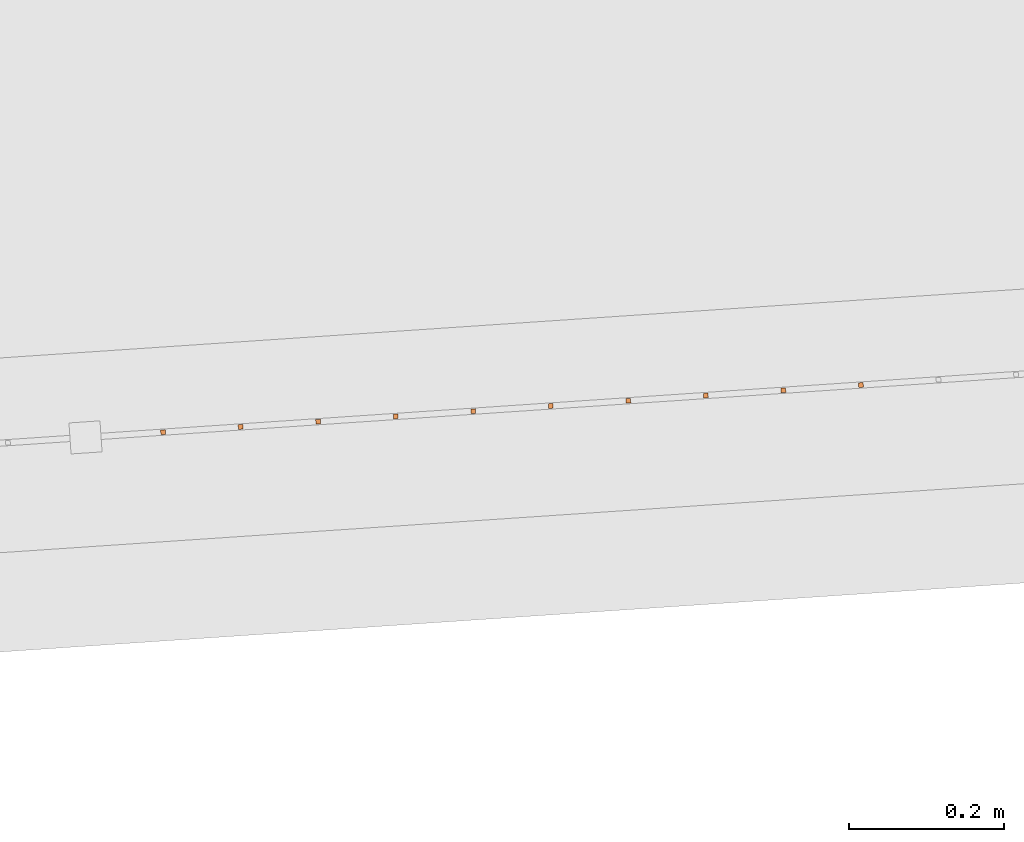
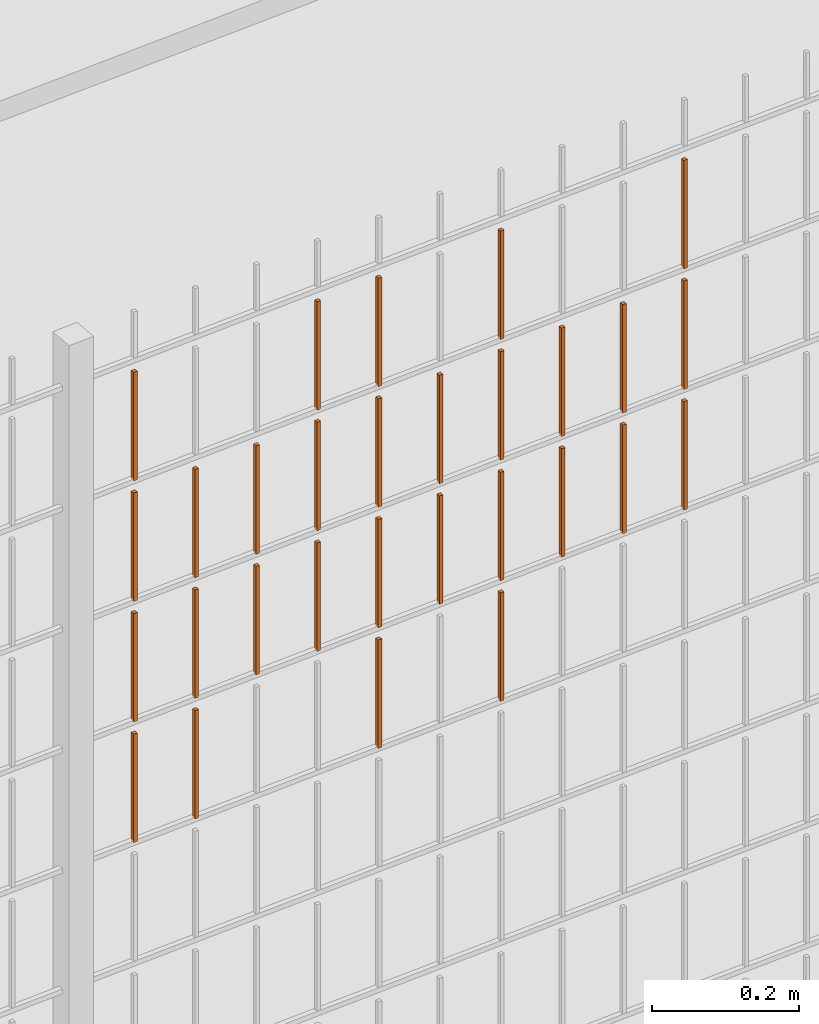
# One storey, part 266 of 1809: 29 proxies, 1 element without a shape of its own.
"""IFC2X3 building model written with IfcOpenShell, lengths in millimetres."""

from ifc_helpers import new_model, entity, si_unit, converted_unit, derived_unit, money_unit, direction, frame, origin_with_axes, place, context, subcontext, project, spatial, faceted_brep, source, transform, mapped, material, type_object, element, aggregate, save


model = new_model("IFC2X3")

# Units and contexts
model_context = context("Model", 3, precision=0.01, world=origin_with_axes(), true_north=direction((0.0, 1.0)))
body_context = subcontext(model_context, "Body", "Model", "MODEL_VIEW")
ifc_project = project(units=[si_unit("LENGTHUNIT", "METRE", prefix="MILLI"), si_unit("AREAUNIT", "SQUARE_METRE"), si_unit("VOLUMEUNIT", "CUBIC_METRE"), converted_unit("PLANEANGLEUNIT", "DEGREE", entity("IfcPlaneAngleMeasure", 0.0174532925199), si_unit("PLANEANGLEUNIT", "RADIAN"), dimensions=[0, 0, 0, 0, 0, 0, 0]), si_unit("SOLIDANGLEUNIT", "STERADIAN"), money_unit("EUR"), converted_unit("TIMEUNIT", "Year", entity("IfcTimeMeasure", 31556926.0), si_unit("TIMEUNIT", "SECOND"), dimensions=[0, 0, 1, 0, 0, 0, 0]), si_unit("MASSUNIT", "GRAM", prefix="KILO"), si_unit("THERMODYNAMICTEMPERATUREUNIT", "DEGREE_CELSIUS"), si_unit("LUMINOUSINTENSITYUNIT", "LUMEN"), si_unit("ENERGYUNIT", "JOULE", prefix="MEGA"), derived_unit("THERMALCONDUCTANCEUNIT", [(si_unit("POWERUNIT", "WATT"), 1), (si_unit("LENGTHUNIT", "METRE"), -1), (si_unit("THERMODYNAMICTEMPERATUREUNIT", "KELVIN"), -1)]), derived_unit("SPECIFICHEATCAPACITYUNIT", [(si_unit("ENERGYUNIT", "JOULE"), 1), (si_unit("MASSUNIT", "GRAM", prefix="KILO"), -1), (si_unit("THERMODYNAMICTEMPERATUREUNIT", "KELVIN"), -1)]), derived_unit("MASSDENSITYUNIT", [(si_unit("MASSUNIT", "GRAM", prefix="KILO"), 1), (si_unit("VOLUMEUNIT", "CUBIC_METRE"), -1)])], contexts=[model_context])

# Site, building, storey
site_placement = place(None, origin_with_axes())
site = spatial("IfcSite", under=ifc_project, at=site_placement, Name="Politse- ja Piirivalveameti ning Päästeameti ühishoone", CompositionType="ELEMENT")
building_placement = place(site_placement, origin_with_axes())
building = spatial("IfcBuilding", under=site, at=building_placement, Name="Politse- ja Piirivalveameti ning Päästeameti ühishoone", CompositionType="ELEMENT")
storey_placement = place(building_placement, origin_with_axes())
storey = spatial("IfcBuildingStorey", under=building, at=storey_placement, Name="Esimene korrus", CompositionType="ELEMENT", Elevation=0.0)

# Proxies
building_element_proxy_type_1 = type_object("IfcBuildingElementProxyType", Name="Railing Type", PredefinedType="NOTDEFINED")
proxy_1_placement = place(storey_placement, frame((89252.001212, -29183.4766571, 203.661247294), z_axis=(0.0, 0.0, 1.0), x_axis=(1.0, 0.0, 0.0)))
proxy_1 = element("IfcBuildingElementProxy", 1, at=proxy_1_placement, inside=storey, type_object=building_element_proxy_type_1, Name="PIIRDEAED")
ifc_material = material(Name="ET-03_Raud")
building_element_proxy_type_2 = type_object("IfcBuildingElementProxyType", Name="IfcBuildingElementProxy", PredefinedType="NOTDEFINED")
shared_shape_1 = source(origin_with_axes(), body_context, "Body", "Brep", [
    faceted_brep([(3.0, 3.0, -0.000752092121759), (-3.0, 3.0, -0.00075209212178), (-3.0, 3.0, 179.99926046), (3.0, 3.0, 179.99926046), (3.0, -3.0, 0.00075209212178), (-3.0, -3.0, 0.000752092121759), (-3.0, -3.0, 180.000764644), (3.0, -3.0, 180.000764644)], [[[0, 1, 2, 3]], [[0, 4, 5, 1]], [[1, 5, 6, 2]], [[3, 2, 6, 7]], [[4, 0, 3, 7]], [[5, 4, 7, 6]]]),
])
proxy_2_placement = place(proxy_1_placement, frame((-57096.5848245, -21154.4335918, 1212.88780512), z_axis=(0.0, 0.0, 1.0), x_axis=(1.0, 0.0, 0.0)))
proxy_2 = element("IfcBuildingElementProxy", 2, at=proxy_2_placement, type_object=building_element_proxy_type_2, material=ifc_material, Name="BALUSTER - 001", context=body_context, shape_type="MappedRepresentation", body=[
    mapped(shared_shape_1, transform((0.0, 0.0, 0.0), x_axis=(-0.0673926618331, 0.997726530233, 0.0), y_axis=(-0.997726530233, -0.0673926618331, 0.0), z_axis=(0.0, 0.0, 1.0))),
])
shared_shape_2 = source(origin_with_axes(), body_context, "Body", "Brep", [
    faceted_brep([(3.0, 3.0, -0.000752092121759), (-3.0, 3.0, -0.00075209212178), (-3.0, 3.0, 179.99926046), (3.0, 3.0, 179.99926046), (3.0, -3.0, 0.00075209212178), (-3.0, -3.0, 0.000752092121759), (-3.0, -3.0, 180.000764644), (3.0, -3.0, 180.000764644)], [[[0, 1, 2, 3]], [[0, 4, 5, 1]], [[1, 5, 6, 2]], [[3, 2, 6, 7]], [[4, 0, 3, 7]], [[5, 4, 7, 6]]]),
])
proxy_3_placement = place(proxy_1_placement, frame((-57096.5848245, -21154.4335918, 1412.88780512), z_axis=(0.0, 0.0, 1.0), x_axis=(1.0, 0.0, 0.0)))
proxy_3 = element("IfcBuildingElementProxy", 3, at=proxy_3_placement, type_object=building_element_proxy_type_2, material=ifc_material, Name="BALUSTER - 001", context=body_context, shape_type="MappedRepresentation", body=[
    mapped(shared_shape_2, transform((0.0, 0.0, 0.0), x_axis=(-0.0673926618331, 0.997726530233, 0.0), y_axis=(-0.997726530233, -0.0673926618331, 0.0), z_axis=(0.0, 0.0, 1.0))),
])
proxy_4_placement = place(proxy_1_placement, frame((-57096.5848245, -21154.4335918, 1612.88780512), z_axis=(0.0, 0.0, 1.0), x_axis=(1.0, 0.0, 0.0)))
proxy_4 = element("IfcBuildingElementProxy", 4, at=proxy_4_placement, type_object=building_element_proxy_type_2, material=ifc_material, Name="BALUSTER - 001", context=body_context, shape_type="MappedRepresentation", body=[
    mapped(shared_shape_2, transform((0.0, 0.0, 0.0), x_axis=(-0.0673926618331, 0.997726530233, 0.0), y_axis=(-0.997726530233, -0.0673926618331, 0.0), z_axis=(0.0, 0.0, 1.0))),
])
shared_shape_3 = source(origin_with_axes(), body_context, "Body", "Brep", [
    faceted_brep([(3.0, 3.0, -0.000752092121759), (-3.0, 3.0, -0.00075209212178), (-3.0, 3.0, 179.99926046), (3.0, 3.0, 179.99926046), (3.0, -3.0, 0.00075209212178), (-3.0, -3.0, 0.000752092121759), (-3.0, -3.0, 180.000764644), (3.0, -3.0, 180.000764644)], [[[0, 1, 2, 3]], [[0, 4, 5, 1]], [[1, 5, 6, 2]], [[3, 2, 6, 7]], [[4, 0, 3, 7]], [[5, 4, 7, 6]]]),
])
proxy_5_placement = place(proxy_1_placement, frame((-56497.9489064, -21113.9979947, 1213.03822354), z_axis=(0.0, 0.0, 1.0), x_axis=(1.0, 0.0, 0.0)))
proxy_5 = element("IfcBuildingElementProxy", 5, at=proxy_5_placement, type_object=building_element_proxy_type_2, material=ifc_material, Name="BALUSTER - 001", context=body_context, shape_type="MappedRepresentation", body=[
    mapped(shared_shape_3, transform((0.0, 0.0, 0.0), x_axis=(-0.0673926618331, 0.997726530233, 0.0), y_axis=(-0.997726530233, -0.0673926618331, 0.0), z_axis=(0.0, 0.0, 1.0))),
])
shared_shape_4 = source(origin_with_axes(), body_context, "Body", "Brep", [
    faceted_brep([(3.0, 3.0, -0.00075209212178), (-3.0, 3.0, -0.000752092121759), (-3.0, 3.0, 179.99926046), (3.0, 3.0, 179.99926046), (3.0, -3.0, 0.000752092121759), (-3.0, -3.0, 0.00075209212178), (-3.0, -3.0, 180.000764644), (3.0, -3.0, 180.000764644)], [[[0, 1, 2, 3]], [[0, 4, 5, 1]], [[1, 5, 6, 2]], [[3, 2, 6, 7]], [[4, 0, 3, 7]], [[5, 4, 7, 6]]]),
])
proxy_6_placement = place(proxy_1_placement, frame((-56697.4942124, -21127.476527, 1212.98808407), z_axis=(0.0, 0.0, 1.0), x_axis=(1.0, 0.0, 0.0)))
proxy_6 = element("IfcBuildingElementProxy", 6, at=proxy_6_placement, type_object=building_element_proxy_type_2, material=ifc_material, Name="BALUSTER - 001", context=body_context, shape_type="MappedRepresentation", body=[
    mapped(shared_shape_4, transform((0.0, 0.0, 0.0), x_axis=(-0.0673926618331, 0.997726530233, 0.0), y_axis=(-0.997726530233, -0.0673926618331, 0.0), z_axis=(0.0, 0.0, 1.0))),
])
shared_shape_5 = source(origin_with_axes(), body_context, "Body", "Brep", [
    faceted_brep([(3.0, 3.0, -0.000752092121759), (-3.0, 3.0, -0.000752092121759), (-3.0, 3.0, 179.99926046), (3.0, 3.0, 179.99926046), (3.0, -3.0, 0.000752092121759), (-3.0, -3.0, 0.000752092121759), (-3.0, -3.0, 180.000764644), (3.0, -3.0, 180.000764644)], [[[0, 1, 2, 3]], [[0, 4, 5, 1]], [[1, 5, 6, 2]], [[3, 2, 6, 7]], [[4, 0, 3, 7]], [[5, 4, 7, 6]]]),
])
proxy_7_placement = place(proxy_1_placement, frame((-56198.6309473, -21093.7801961, 1813.11343275), z_axis=(0.0, 0.0, 1.0), x_axis=(1.0, 0.0, 0.0)))
proxy_7 = element("IfcBuildingElementProxy", 7, at=proxy_7_placement, type_object=building_element_proxy_type_2, material=ifc_material, Name="BALUSTER - 001", context=body_context, shape_type="MappedRepresentation", body=[
    mapped(shared_shape_5, transform((0.0, 0.0, 0.0), x_axis=(-0.0673926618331, 0.997726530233, 0.0), y_axis=(-0.997726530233, -0.0673926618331, 0.0), z_axis=(0.0, 0.0, 1.0))),
])
proxy_8_placement = place(proxy_1_placement, frame((-56797.2668654, -21134.2157932, 1812.96301433), z_axis=(0.0, 0.0, 1.0), x_axis=(1.0, 0.0, 0.0)))
proxy_8 = element("IfcBuildingElementProxy", 8, at=proxy_8_placement, type_object=building_element_proxy_type_2, material=ifc_material, Name="BALUSTER - 001", context=body_context, shape_type="MappedRepresentation", body=[
    mapped(shared_shape_5, transform((0.0, 0.0, 0.0), x_axis=(-0.0673926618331, 0.997726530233, 0.0), y_axis=(-0.997726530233, -0.0673926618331, 0.0), z_axis=(0.0, 0.0, 1.0))),
])
shared_shape_6 = source(origin_with_axes(), body_context, "Body", "Brep", [
    faceted_brep([(3.0, 3.0, -0.000752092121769), (-3.0, 3.0, -0.00075209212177), (-3.0, 3.0, 179.99926046), (3.0, 3.0, 179.99926046), (3.0, -3.0, 0.00075209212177), (-3.0, -3.0, 0.000752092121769), (-3.0, -3.0, 180.000764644), (3.0, -3.0, 180.000764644)], [[[0, 1, 2, 3]], [[0, 4, 5, 1]], [[1, 5, 6, 2]], [[3, 2, 6, 7]], [[4, 0, 3, 7]], [[5, 4, 7, 6]]]),
])
proxy_9_placement = place(proxy_1_placement, frame((-56996.8121715, -21147.6943256, 1212.91287486), z_axis=(0.0, 0.0, 1.0), x_axis=(1.0, 0.0, 0.0)))
proxy_9 = element("IfcBuildingElementProxy", 9, at=proxy_9_placement, type_object=building_element_proxy_type_2, material=ifc_material, Name="BALUSTER - 001", context=body_context, shape_type="MappedRepresentation", body=[
    mapped(shared_shape_6, transform((0.0, 0.0, 0.0), x_axis=(-0.0673926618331, 0.997726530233, 0.0), y_axis=(-0.997726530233, -0.0673926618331, 0.0), z_axis=(0.0, 0.0, 1.0))),
])
shared_shape_7 = source(origin_with_axes(), body_context, "Body", "Brep", [
    faceted_brep([(3.0, 3.0, -0.00075209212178), (-3.0, 3.0, -0.000752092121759), (-3.0, 3.0, 179.99926046), (3.0, 3.0, 179.99926046), (3.0, -3.0, 0.000752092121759), (-3.0, -3.0, 0.00075209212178), (-3.0, -3.0, 180.000764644), (3.0, -3.0, 180.000764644)], [[[0, 1, 2, 3]], [[0, 4, 5, 1]], [[1, 5, 6, 2]], [[3, 2, 6, 7]], [[4, 0, 3, 7]], [[5, 4, 7, 6]]]),
])
proxy_10_placement = place(proxy_1_placement, frame((-56697.4942124, -21127.476527, 1412.98808407), z_axis=(0.0, 0.0, 1.0), x_axis=(1.0, 0.0, 0.0)))
proxy_10 = element("IfcBuildingElementProxy", 10, at=proxy_10_placement, type_object=building_element_proxy_type_2, material=ifc_material, Name="BALUSTER - 001", context=body_context, shape_type="MappedRepresentation", body=[
    mapped(shared_shape_7, transform((0.0, 0.0, 0.0), x_axis=(-0.0673926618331, 0.997726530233, 0.0), y_axis=(-0.997726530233, -0.0673926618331, 0.0), z_axis=(0.0, 0.0, 1.0))),
])
proxy_11_placement = place(proxy_1_placement, frame((-56697.4942124, -21127.476527, 1612.98808407), z_axis=(0.0, 0.0, 1.0), x_axis=(1.0, 0.0, 0.0)))
proxy_11 = element("IfcBuildingElementProxy", 11, at=proxy_11_placement, type_object=building_element_proxy_type_2, material=ifc_material, Name="BALUSTER - 001", context=body_context, shape_type="MappedRepresentation", body=[
    mapped(shared_shape_7, transform((0.0, 0.0, 0.0), x_axis=(-0.0673926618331, 0.997726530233, 0.0), y_axis=(-0.997726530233, -0.0673926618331, 0.0), z_axis=(0.0, 0.0, 1.0))),
])
shared_shape_8 = source(origin_with_axes(), body_context, "Body", "Brep", [
    faceted_brep([(3.0, 3.0, -0.000752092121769), (-3.0, 3.0, -0.00075209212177), (-3.0, 3.0, 179.99926046), (3.0, 3.0, 179.99926046), (3.0, -3.0, 0.00075209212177), (-3.0, -3.0, 0.000752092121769), (-3.0, -3.0, 180.000764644), (3.0, -3.0, 180.000764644)], [[[0, 1, 2, 3]], [[0, 4, 5, 1]], [[1, 5, 6, 2]], [[3, 2, 6, 7]], [[4, 0, 3, 7]], [[5, 4, 7, 6]]]),
])
proxy_12_placement = place(proxy_1_placement, frame((-56996.8121715, -21147.6943256, 1412.91287486), z_axis=(0.0, 0.0, 1.0), x_axis=(1.0, 0.0, 0.0)))
proxy_12 = element("IfcBuildingElementProxy", 12, at=proxy_12_placement, type_object=building_element_proxy_type_2, material=ifc_material, Name="BALUSTER - 001", context=body_context, shape_type="MappedRepresentation", body=[
    mapped(shared_shape_8, transform((0.0, 0.0, 0.0), x_axis=(-0.0673926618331, 0.997726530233, 0.0), y_axis=(-0.997726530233, -0.0673926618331, 0.0), z_axis=(0.0, 0.0, 1.0))),
])
proxy_13_placement = place(proxy_1_placement, frame((-56996.8121715, -21147.6943256, 1612.91287486), z_axis=(0.0, 0.0, 1.0), x_axis=(1.0, 0.0, 0.0)))
proxy_13 = element("IfcBuildingElementProxy", 13, at=proxy_13_placement, type_object=building_element_proxy_type_2, material=ifc_material, Name="BALUSTER - 001", context=body_context, shape_type="MappedRepresentation", body=[
    mapped(shared_shape_8, transform((0.0, 0.0, 0.0), x_axis=(-0.0673926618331, 0.997726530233, 0.0), y_axis=(-0.997726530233, -0.0673926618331, 0.0), z_axis=(0.0, 0.0, 1.0))),
])
shared_shape_9 = source(origin_with_axes(), body_context, "Body", "Brep", [
    faceted_brep([(3.0, 3.0, -0.000752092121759), (-3.0, 3.0, -0.000752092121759), (-3.0, 3.0, 179.99926046), (3.0, 3.0, 179.99926046), (3.0, -3.0, 0.000752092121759), (-3.0, -3.0, 0.000752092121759), (-3.0, -3.0, 180.000764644), (3.0, -3.0, 180.000764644)], [[[0, 1, 2, 3]], [[0, 4, 5, 1]], [[1, 5, 6, 2]], [[3, 2, 6, 7]], [[4, 0, 3, 7]], [[5, 4, 7, 6]]]),
])
proxy_14_placement = place(proxy_1_placement, frame((-56198.6309473, -21093.7801961, 1413.11343275), z_axis=(0.0, 0.0, 1.0), x_axis=(1.0, 0.0, 0.0)))
proxy_14 = element("IfcBuildingElementProxy", 14, at=proxy_14_placement, type_object=building_element_proxy_type_2, material=ifc_material, Name="BALUSTER - 001", context=body_context, shape_type="MappedRepresentation", body=[
    mapped(shared_shape_9, transform((0.0, 0.0, 0.0), x_axis=(-0.0673926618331, 0.997726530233, 0.0), y_axis=(-0.997726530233, -0.0673926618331, 0.0), z_axis=(0.0, 0.0, 1.0))),
])
proxy_15_placement = place(proxy_1_placement, frame((-56198.6309473, -21093.7801961, 1613.11343275), z_axis=(0.0, 0.0, 1.0), x_axis=(1.0, 0.0, 0.0)))
proxy_15 = element("IfcBuildingElementProxy", 15, at=proxy_15_placement, type_object=building_element_proxy_type_2, material=ifc_material, Name="BALUSTER - 001", context=body_context, shape_type="MappedRepresentation", body=[
    mapped(shared_shape_9, transform((0.0, 0.0, 0.0), x_axis=(-0.0673926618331, 0.997726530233, 0.0), y_axis=(-0.997726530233, -0.0673926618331, 0.0), z_axis=(0.0, 0.0, 1.0))),
])
shared_shape_10 = source(origin_with_axes(), body_context, "Body", "Brep", [
    faceted_brep([(3.0, 3.0, -0.000752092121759), (-3.0, 3.0, -0.00075209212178), (-3.0, 3.0, 179.99926046), (3.0, 3.0, 179.99926046), (3.0, -3.0, 0.00075209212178), (-3.0, -3.0, 0.000752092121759), (-3.0, -3.0, 180.000764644), (3.0, -3.0, 180.000764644)], [[[0, 1, 2, 3]], [[0, 4, 5, 1]], [[1, 5, 6, 2]], [[3, 2, 6, 7]], [[4, 0, 3, 7]], [[5, 4, 7, 6]]]),
])
proxy_16_placement = place(proxy_1_placement, frame((-56298.4036003, -21100.5194623, 1413.08836302), z_axis=(0.0, 0.0, 1.0), x_axis=(1.0, 0.0, 0.0)))
proxy_16 = element("IfcBuildingElementProxy", 16, at=proxy_16_placement, type_object=building_element_proxy_type_2, material=ifc_material, Name="BALUSTER - 001", context=body_context, shape_type="MappedRepresentation", body=[
    mapped(shared_shape_10, transform((0.0, 0.0, 0.0), x_axis=(-0.0673926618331, 0.997726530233, 0.0), y_axis=(-0.997726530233, -0.0673926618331, 0.0), z_axis=(0.0, 0.0, 1.0))),
])
proxy_17_placement = place(proxy_1_placement, frame((-56298.4036003, -21100.5194623, 1613.08836302), z_axis=(0.0, 0.0, 1.0), x_axis=(1.0, 0.0, 0.0)))
proxy_17 = element("IfcBuildingElementProxy", 17, at=proxy_17_placement, type_object=building_element_proxy_type_2, material=ifc_material, Name="BALUSTER - 001", context=body_context, shape_type="MappedRepresentation", body=[
    mapped(shared_shape_10, transform((0.0, 0.0, 0.0), x_axis=(-0.0673926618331, 0.997726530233, 0.0), y_axis=(-0.997726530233, -0.0673926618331, 0.0), z_axis=(0.0, 0.0, 1.0))),
])
shared_shape_11 = source(origin_with_axes(), body_context, "Body", "Brep", [
    faceted_brep([(3.0, 3.0, -0.000752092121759), (-3.0, 3.0, -0.00075209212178), (-3.0, 3.0, 179.99926046), (3.0, 3.0, 179.99926046), (3.0, -3.0, 0.00075209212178), (-3.0, -3.0, 0.000752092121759), (-3.0, -3.0, 180.000764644), (3.0, -3.0, 180.000764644)], [[[0, 1, 2, 3]], [[0, 4, 5, 1]], [[1, 5, 6, 2]], [[3, 2, 6, 7]], [[4, 0, 3, 7]], [[5, 4, 7, 6]]]),
])
proxy_18_placement = place(proxy_1_placement, frame((-56398.1762534, -21107.2587285, 1413.06329328), z_axis=(0.0, 0.0, 1.0), x_axis=(1.0, 0.0, 0.0)))
proxy_18 = element("IfcBuildingElementProxy", 18, at=proxy_18_placement, type_object=building_element_proxy_type_2, material=ifc_material, Name="BALUSTER - 001", context=body_context, shape_type="MappedRepresentation", body=[
    mapped(shared_shape_11, transform((0.0, 0.0, 0.0), x_axis=(-0.0673926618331, 0.997726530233, 0.0), y_axis=(-0.997726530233, -0.0673926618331, 0.0), z_axis=(0.0, 0.0, 1.0))),
])
proxy_19_placement = place(proxy_1_placement, frame((-56398.1762534, -21107.2587285, 1613.06329328), z_axis=(0.0, 0.0, 1.0), x_axis=(1.0, 0.0, 0.0)))
proxy_19 = element("IfcBuildingElementProxy", 19, at=proxy_19_placement, type_object=building_element_proxy_type_2, material=ifc_material, Name="BALUSTER - 001", context=body_context, shape_type="MappedRepresentation", body=[
    mapped(shared_shape_11, transform((0.0, 0.0, 0.0), x_axis=(-0.0673926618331, 0.997726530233, 0.0), y_axis=(-0.997726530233, -0.0673926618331, 0.0), z_axis=(0.0, 0.0, 1.0))),
])
shared_shape_12 = source(origin_with_axes(), body_context, "Body", "Brep", [
    faceted_brep([(3.0, 3.0, -0.000752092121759), (-3.0, 3.0, -0.00075209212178), (-3.0, 3.0, 179.99926046), (3.0, 3.0, 179.99926046), (3.0, -3.0, 0.00075209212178), (-3.0, -3.0, 0.000752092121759), (-3.0, -3.0, 180.000764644), (3.0, -3.0, 180.000764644)], [[[0, 1, 2, 3]], [[0, 4, 5, 1]], [[1, 5, 6, 2]], [[3, 2, 6, 7]], [[4, 0, 3, 7]], [[5, 4, 7, 6]]]),
])
proxy_20_placement = place(proxy_1_placement, frame((-56497.9489064, -21113.9979947, 1413.03822354), z_axis=(0.0, 0.0, 1.0), x_axis=(1.0, 0.0, 0.0)))
proxy_20 = element("IfcBuildingElementProxy", 20, at=proxy_20_placement, type_object=building_element_proxy_type_2, material=ifc_material, Name="BALUSTER - 001", context=body_context, shape_type="MappedRepresentation", body=[
    mapped(shared_shape_12, transform((0.0, 0.0, 0.0), x_axis=(-0.0673926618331, 0.997726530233, 0.0), y_axis=(-0.997726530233, -0.0673926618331, 0.0), z_axis=(0.0, 0.0, 1.0))),
])
proxy_21_placement = place(proxy_1_placement, frame((-56497.9489064, -21113.9979947, 1613.03822354), z_axis=(0.0, 0.0, 1.0), x_axis=(1.0, 0.0, 0.0)))
proxy_21 = element("IfcBuildingElementProxy", 21, at=proxy_21_placement, type_object=building_element_proxy_type_2, material=ifc_material, Name="BALUSTER - 001", context=body_context, shape_type="MappedRepresentation", body=[
    mapped(shared_shape_12, transform((0.0, 0.0, 0.0), x_axis=(-0.0673926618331, 0.997726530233, 0.0), y_axis=(-0.997726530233, -0.0673926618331, 0.0), z_axis=(0.0, 0.0, 1.0))),
])
shared_shape_13 = source(origin_with_axes(), body_context, "Body", "Brep", [
    faceted_brep([(3.0, 3.0, -0.000752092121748), (-3.0, 3.0, -0.00075209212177), (-3.0, 3.0, 179.99926046), (3.0, 3.0, 179.99926046), (3.0, -3.0, 0.00075209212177), (-3.0, -3.0, 0.000752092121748), (-3.0, -3.0, 180.000764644), (3.0, -3.0, 180.000764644)], [[[0, 1, 2, 3]], [[0, 4, 5, 1]], [[1, 5, 6, 2]], [[3, 2, 6, 7]], [[4, 0, 3, 7]], [[5, 4, 7, 6]]]),
])
proxy_22_placement = place(proxy_1_placement, frame((-56597.7215594, -21120.7372608, 1413.01315381), z_axis=(0.0, 0.0, 1.0), x_axis=(1.0, 0.0, 0.0)))
proxy_22 = element("IfcBuildingElementProxy", 22, at=proxy_22_placement, type_object=building_element_proxy_type_2, material=ifc_material, Name="BALUSTER - 001", context=body_context, shape_type="MappedRepresentation", body=[
    mapped(shared_shape_13, transform((0.0, 0.0, 0.0), x_axis=(-0.0673926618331, 0.997726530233, 0.0), y_axis=(-0.997726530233, -0.0673926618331, 0.0), z_axis=(0.0, 0.0, 1.0))),
])
proxy_23_placement = place(proxy_1_placement, frame((-56597.7215594, -21120.7372608, 1613.01315381), z_axis=(0.0, 0.0, 1.0), x_axis=(1.0, 0.0, 0.0)))
proxy_23 = element("IfcBuildingElementProxy", 23, at=proxy_23_placement, type_object=building_element_proxy_type_2, material=ifc_material, Name="BALUSTER - 001", context=body_context, shape_type="MappedRepresentation", body=[
    mapped(shared_shape_13, transform((0.0, 0.0, 0.0), x_axis=(-0.0673926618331, 0.997726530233, 0.0), y_axis=(-0.997726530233, -0.0673926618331, 0.0), z_axis=(0.0, 0.0, 1.0))),
])
shared_shape_14 = source(origin_with_axes(), body_context, "Body", "Brep", [
    faceted_brep([(3.0, 3.0, -0.000752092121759), (-3.0, 3.0, -0.000752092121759), (-3.0, 3.0, 179.99926046), (3.0, 3.0, 179.99926046), (3.0, -3.0, 0.000752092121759), (-3.0, -3.0, 0.000752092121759), (-3.0, -3.0, 180.000764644), (3.0, -3.0, 180.000764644)], [[[0, 1, 2, 3]], [[0, 4, 5, 1]], [[1, 5, 6, 2]], [[3, 2, 6, 7]], [[4, 0, 3, 7]], [[5, 4, 7, 6]]]),
])
proxy_24_placement = place(proxy_1_placement, frame((-56797.2668654, -21134.2157932, 1412.96301433), z_axis=(0.0, 0.0, 1.0), x_axis=(1.0, 0.0, 0.0)))
proxy_24 = element("IfcBuildingElementProxy", 24, at=proxy_24_placement, type_object=building_element_proxy_type_2, material=ifc_material, Name="BALUSTER - 001", context=body_context, shape_type="MappedRepresentation", body=[
    mapped(shared_shape_14, transform((0.0, 0.0, 0.0), x_axis=(-0.0673926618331, 0.997726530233, 0.0), y_axis=(-0.997726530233, -0.0673926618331, 0.0), z_axis=(0.0, 0.0, 1.0))),
])
proxy_25_placement = place(proxy_1_placement, frame((-56797.2668654, -21134.2157932, 1612.96301433), z_axis=(0.0, 0.0, 1.0), x_axis=(1.0, 0.0, 0.0)))
proxy_25 = element("IfcBuildingElementProxy", 25, at=proxy_25_placement, type_object=building_element_proxy_type_2, material=ifc_material, Name="BALUSTER - 001", context=body_context, shape_type="MappedRepresentation", body=[
    mapped(shared_shape_14, transform((0.0, 0.0, 0.0), x_axis=(-0.0673926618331, 0.997726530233, 0.0), y_axis=(-0.997726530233, -0.0673926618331, 0.0), z_axis=(0.0, 0.0, 1.0))),
])
shared_shape_15 = source(origin_with_axes(), body_context, "Body", "Brep", [
    faceted_brep([(3.0, 3.0, -0.000752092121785), (-3.0, 3.0, -0.000752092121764), (-3.0, 3.0, 179.99926046), (3.0, 3.0, 179.99926046), (3.0, -3.0, 0.000752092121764), (-3.0, -3.0, 0.000752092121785), (-3.0, -3.0, 180.000764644), (3.0, -3.0, 180.000764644)], [[[0, 1, 2, 3]], [[0, 4, 5, 1]], [[1, 5, 6, 2]], [[3, 2, 6, 7]], [[4, 0, 3, 7]], [[5, 4, 7, 6]]]),
])
proxy_26_placement = place(proxy_1_placement, frame((-56897.0395185, -21140.9550594, 1412.93794459), z_axis=(0.0, 0.0, 1.0), x_axis=(1.0, 0.0, 0.0)))
proxy_26 = element("IfcBuildingElementProxy", 26, at=proxy_26_placement, type_object=building_element_proxy_type_2, material=ifc_material, Name="BALUSTER - 001", context=body_context, shape_type="MappedRepresentation", body=[
    mapped(shared_shape_15, transform((0.0, 0.0, 0.0), x_axis=(-0.0673926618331, 0.997726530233, 0.0), y_axis=(-0.997726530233, -0.0673926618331, 0.0), z_axis=(0.0, 0.0, 1.0))),
])
proxy_27_placement = place(proxy_1_placement, frame((-56897.0395185, -21140.9550594, 1612.93794459), z_axis=(0.0, 0.0, 1.0), x_axis=(1.0, 0.0, 0.0)))
proxy_27 = element("IfcBuildingElementProxy", 27, at=proxy_27_placement, type_object=building_element_proxy_type_2, material=ifc_material, Name="BALUSTER - 001", context=body_context, shape_type="MappedRepresentation", body=[
    mapped(shared_shape_15, transform((0.0, 0.0, 0.0), x_axis=(-0.0673926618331, 0.997726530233, 0.0), y_axis=(-0.997726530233, -0.0673926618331, 0.0), z_axis=(0.0, 0.0, 1.0))),
])
shared_shape_16 = source(origin_with_axes(), body_context, "Body", "Brep", [
    faceted_brep([(3.0, 3.0, -0.00075209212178), (-3.0, 3.0, -0.000752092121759), (-3.0, 3.0, 179.99926046), (3.0, 3.0, 179.99926046), (3.0, -3.0, 0.000752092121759), (-3.0, -3.0, 0.00075209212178), (-3.0, -3.0, 180.000764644), (3.0, -3.0, 180.000764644)], [[[0, 1, 2, 3]], [[0, 4, 5, 1]], [[1, 5, 6, 2]], [[3, 2, 6, 7]], [[4, 0, 3, 7]], [[5, 4, 7, 6]]]),
])
proxy_28_placement = place(proxy_1_placement, frame((-56697.4942124, -21127.476527, 1812.98808407), z_axis=(0.0, 0.0, 1.0), x_axis=(1.0, 0.0, 0.0)))
proxy_28 = element("IfcBuildingElementProxy", 28, at=proxy_28_placement, type_object=building_element_proxy_type_2, material=ifc_material, Name="BALUSTER - 001", context=body_context, shape_type="MappedRepresentation", body=[
    mapped(shared_shape_16, transform((0.0, 0.0, 0.0), x_axis=(-0.0673926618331, 0.997726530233, 0.0), y_axis=(-0.997726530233, -0.0673926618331, 0.0), z_axis=(0.0, 0.0, 1.0))),
])
shared_shape_17 = source(origin_with_axes(), body_context, "Body", "Brep", [
    faceted_brep([(3.0, 3.0, -0.000752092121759), (-3.0, 3.0, -0.00075209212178), (-3.0, 3.0, 179.99926046), (3.0, 3.0, 179.99926046), (3.0, -3.0, 0.00075209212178), (-3.0, -3.0, 0.000752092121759), (-3.0, -3.0, 180.000764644), (3.0, -3.0, 180.000764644)], [[[0, 1, 2, 3]], [[0, 4, 5, 1]], [[1, 5, 6, 2]], [[3, 2, 6, 7]], [[4, 0, 3, 7]], [[5, 4, 7, 6]]]),
])
proxy_29_placement = place(proxy_1_placement, frame((-56497.9489064, -21113.9979947, 1813.03822354), z_axis=(0.0, 0.0, 1.0), x_axis=(1.0, 0.0, 0.0)))
proxy_29 = element("IfcBuildingElementProxy", 29, at=proxy_29_placement, type_object=building_element_proxy_type_2, material=ifc_material, Name="BALUSTER - 001", context=body_context, shape_type="MappedRepresentation", body=[
    mapped(shared_shape_17, transform((0.0, 0.0, 0.0), x_axis=(-0.0673926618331, 0.997726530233, 0.0), y_axis=(-0.997726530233, -0.0673926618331, 0.0), z_axis=(0.0, 0.0, 1.0))),
])
proxy_30_placement = place(proxy_1_placement, frame((-57096.5848245, -21154.4335918, 1812.88780512), z_axis=(0.0, 0.0, 1.0), x_axis=(1.0, 0.0, 0.0)))
proxy_30 = element("IfcBuildingElementProxy", 30, at=proxy_30_placement, type_object=building_element_proxy_type_2, material=ifc_material, Name="BALUSTER - 001", context=body_context, shape_type="MappedRepresentation", body=[
    mapped(shared_shape_17, transform((0.0, 0.0, 0.0), x_axis=(-0.0673926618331, 0.997726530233, 0.0), y_axis=(-0.997726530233, -0.0673926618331, 0.0), z_axis=(0.0, 0.0, 1.0))),
])
aggregate(proxy_1, [proxy_5, proxy_6, proxy_9, proxy_2, proxy_14, proxy_16, proxy_18, proxy_20, proxy_22, proxy_10, proxy_24, proxy_26, proxy_12, proxy_3, proxy_15, proxy_17, proxy_19, proxy_21, proxy_23, proxy_11, proxy_25, proxy_27, proxy_13, proxy_4, proxy_7, proxy_29, proxy_28, proxy_8, proxy_30])

save(model, "model.ifc")
